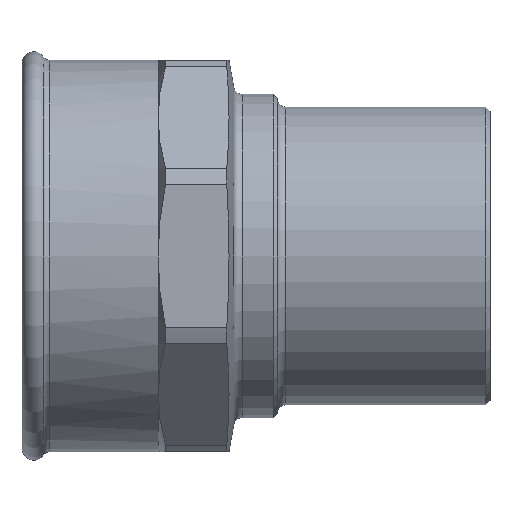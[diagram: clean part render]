
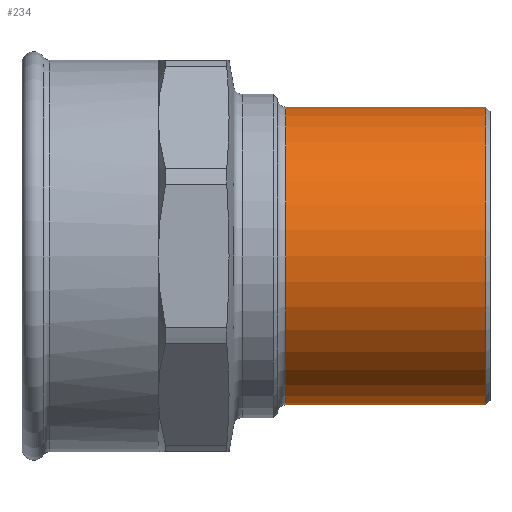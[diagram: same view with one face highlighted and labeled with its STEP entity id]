
A CAD part, left-side view. The second image highlights one B-rep face of the part: STEP entity #234.
In plain terms, the highlighted cylindrical face has radius 17.5 mm (diameter 35 mm), a partial arc.
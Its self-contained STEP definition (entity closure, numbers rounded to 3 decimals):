
#31 = CARTESIAN_POINT ( 'NONE',  ( 0., -17.811, 0. ) ) ;
#56 = EDGE_CURVE ( 'NONE', #1008, #308, #377, .T. ) ;
#172 = LINE ( 'NONE', #1424, #1578 ) ;
#234 = ADVANCED_FACE ( 'NONE', ( #1651 ), #1230, .T. ) ;
#289 = CARTESIAN_POINT ( 'NONE',  ( 0., 0.5, 0. ) ) ;
#308 = VERTEX_POINT ( 'NONE', #1666 ) ;
#350 = DIRECTION ( 'NONE',  ( 0., -1., 0. ) ) ;
#377 = CIRCLE ( 'NONE', #515, 17.5 ) ;
#389 = AXIS2_PLACEMENT_3D ( 'NONE', #31, #751, #1626 ) ;
#515 = AXIS2_PLACEMENT_3D ( 'NONE', #1295, #350, #1513 ) ;
#720 = EDGE_CURVE ( 'NONE', #1321, #774, #903, .T. ) ;
#723 = DIRECTION ( 'NONE',  ( 0., -1., 0. ) ) ;
#751 = DIRECTION ( 'NONE',  ( 0., -1., 0. ) ) ;
#774 = VERTEX_POINT ( 'NONE', #785 ) ;
#781 = VECTOR ( 'NONE', #868, 1000. ) ;
#785 = CARTESIAN_POINT ( 'NONE',  ( 0., 0.5, -17.5 ) ) ;
#858 = EDGE_CURVE ( 'NONE', #1008, #1321, #1124, .T. ) ;
#863 = ORIENTED_EDGE ( 'NONE', *, *, #56, .T. ) ;
#868 = DIRECTION ( 'NONE',  ( 0., -1., 0. ) ) ;
#871 = CARTESIAN_POINT ( 'NONE',  ( 0., 24., 17.5 ) ) ;
#880 = AXIS2_PLACEMENT_3D ( 'NONE', #289, #723, #1416 ) ;
#903 = CIRCLE ( 'NONE', #880, 17.5 ) ;
#911 = CARTESIAN_POINT ( 'NONE',  ( 0., -17.811, 17.5 ) ) ;
#960 = DIRECTION ( 'NONE',  ( 0., -1., 0. ) ) ;
#1008 = VERTEX_POINT ( 'NONE', #871 ) ;
#1124 = LINE ( 'NONE', #911, #781 ) ;
#1230 = CYLINDRICAL_SURFACE ( 'NONE', #389, 17.5 ) ;
#1295 = CARTESIAN_POINT ( 'NONE',  ( 0., 24., 0. ) ) ;
#1296 = CARTESIAN_POINT ( 'NONE',  ( 0., 0.5, 17.5 ) ) ;
#1307 = ORIENTED_EDGE ( 'NONE', *, *, #720, .F. ) ;
#1321 = VERTEX_POINT ( 'NONE', #1296 ) ;
#1416 = DIRECTION ( 'NONE',  ( 0., 0., -1. ) ) ;
#1424 = CARTESIAN_POINT ( 'NONE',  ( 0., -17.811, -17.5 ) ) ;
#1513 = DIRECTION ( 'NONE',  ( 0., 0., -1. ) ) ;
#1560 = ORIENTED_EDGE ( 'NONE', *, *, #858, .F. ) ;
#1575 = EDGE_LOOP ( 'NONE', ( #1560, #863, #1605, #1307 ) ) ;
#1578 = VECTOR ( 'NONE', #960, 1000. ) ;
#1605 = ORIENTED_EDGE ( 'NONE', *, *, #1723, .T. ) ;
#1626 = DIRECTION ( 'NONE',  ( 0., 0., -1. ) ) ;
#1651 = FACE_OUTER_BOUND ( 'NONE', #1575, .T. ) ;
#1666 = CARTESIAN_POINT ( 'NONE',  ( 0., 24., -17.5 ) ) ;
#1723 = EDGE_CURVE ( 'NONE', #308, #774, #172, .T. ) ;
